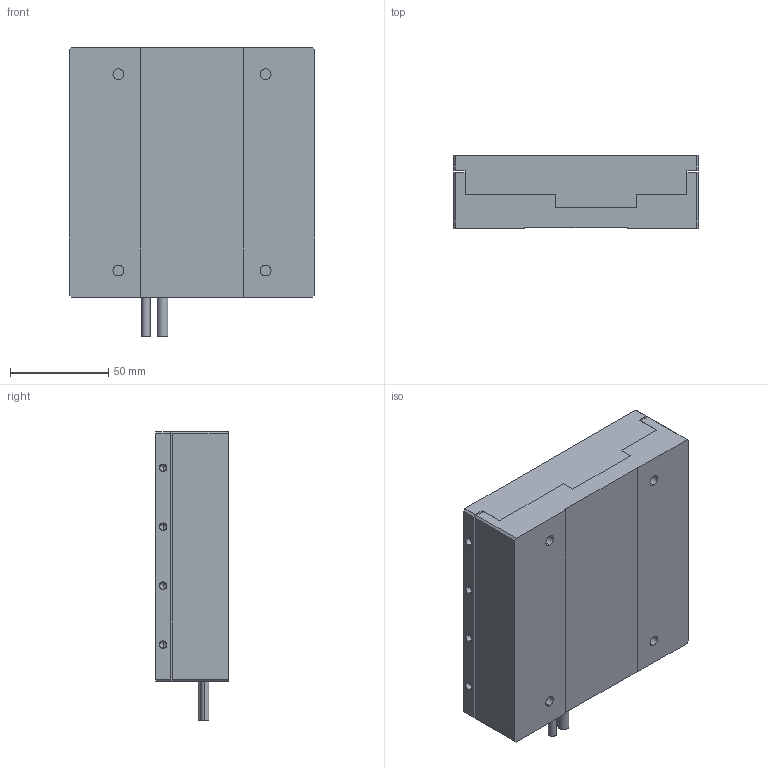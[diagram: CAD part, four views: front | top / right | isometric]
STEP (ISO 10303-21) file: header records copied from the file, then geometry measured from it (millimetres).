
FILE_DESCRIPTION (( 'STEP AP203' ), '1' );
FILE_NAME ('NPS-L-UB1-05x.STEP', '2019-09-11T05:12:14', ( '' ), ( '' ), 'SwSTEP 2.0', 'SolidWorks 2015', '' );
FILE_SCHEMA (( 'CONFIG_CONTROL_DESIGN' ));
Length unit declared in the file: millimetre
Products named in the file (3): NPS-L-UB1-05x; NPS-L-UB1-05x_移動部; NPS-L-UB1-05x_固定部
Assembly tree (2 placements, depth 2):
  NPS-L-UB1-05x
    NPS-L-UB1-05x_固定部
    NPS-L-UB1-05x_移動部
Bounding box: 125 x 37 x 147 mm (x, y, z)
Volume: 576375.8 mm3; surface area: 96038.5 mm2
Topology: 2 solids, 2 shells, 158 faces, 368 edges, 232 vertices
Faces by surface type: cylinder 76, plane 66, cone 16
Entity records: 4745 total; most frequent: DIRECTION 830, CARTESIAN_POINT 747, ORIENTED_EDGE 704, EDGE_CURVE 352, AXIS2_PLACEMENT_3D 315, VERTEX_POINT 232, EDGE_LOOP 200, LINE 200
